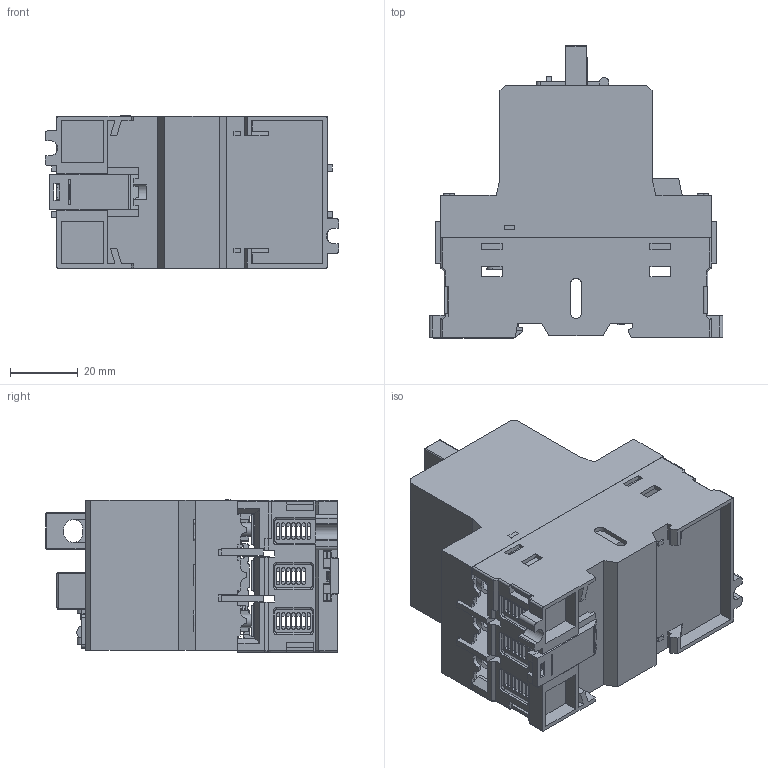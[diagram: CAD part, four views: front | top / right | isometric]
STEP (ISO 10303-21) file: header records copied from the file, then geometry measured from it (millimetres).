
FILE_DESCRIPTION((''),'2; 1');
FILE_NAME('','2026-03-27T11:19:17',(''),(''),'CST STEP Exporter V1.0','Unknown','');
FILE_SCHEMA(('CONFIG_CONTROL_DESIGN'));
Length unit declared in the file: metre
Assembly tree (34 placements, depth 2):
  (unnamed)
    (unnamed)
    (unnamed)
    (unnamed)
    (unnamed)
    (unnamed)
    (unnamed)
    (unnamed)
    (unnamed)
    (unnamed)
    (unnamed)
    (unnamed)
    (unnamed)
    (unnamed)
    (unnamed)
    (unnamed)
    (unnamed)
    (unnamed)
    (unnamed)
    (unnamed)
    (unnamed)
    (unnamed)
    (unnamed)
    (unnamed)
    (unnamed)
    (unnamed)
    (unnamed)
    (unnamed)
    (unnamed)
    (unnamed)
    (unnamed)
    (unnamed)
    (unnamed)
    (unnamed)
    (unnamed)
Bounding box: 87 x 86.49 x 45.1 mm (x, y, z)
Surface area: 109615.8 mm2 (no closed solid volume)
Topology: 0 solids, 34 shells, 1002 faces, 4051 edges, 2993 vertices
Faces by surface type: plane 705, cylinder 240, extrusion 32, torus 20, sphere 4, bspline 1
Full cylindrical faces by diameter (mm): 2 x2, 3.2 x1, 4 x4, 4.8 x1, 7.5 x6, 9.5 x6
Entity records: 52284 total; most frequent: CARTESIAN_POINT 11367, ORIENTED_EDGE 6354, DIRECTION 6159, EDGE_CURVE 4014, VERTEX_POINT 2983, VECTOR 2949, LINE 2917, AXIS2_PLACEMENT_3D 1605
